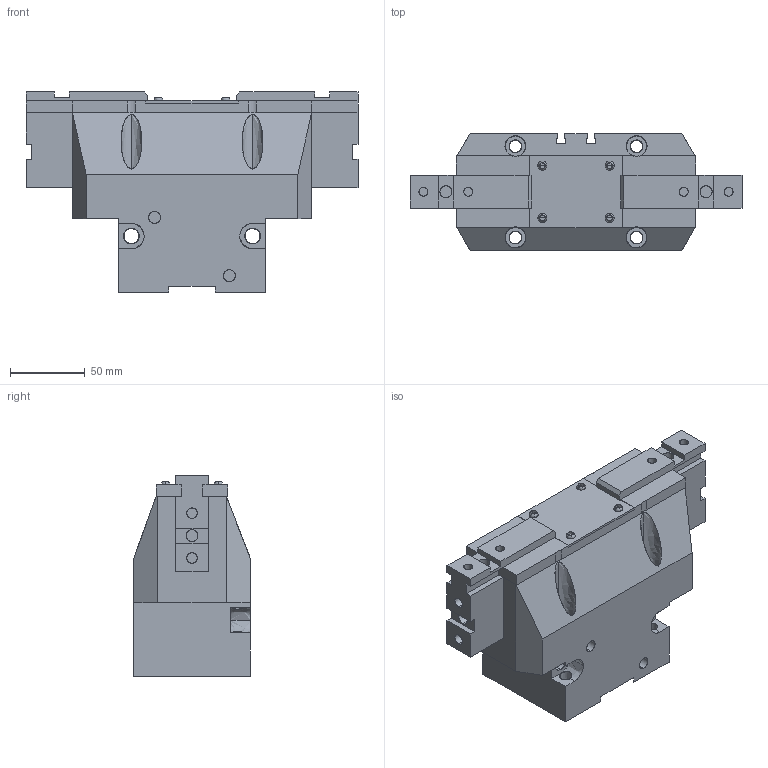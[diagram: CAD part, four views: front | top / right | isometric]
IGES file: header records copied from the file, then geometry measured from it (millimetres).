
Global section: file name: C:\Documents and Settings\Administrateur\Mes documents\OPE-160-OPEN.igs; native system: AutoCAD-16.0s (LMS Tech) (Microsoft Windows NT Version 5.1 (x86)); preprocessor: Autodesk IGES Translator Mechanical Desktop.R7.0.43.0 (Mar 18 2003) from Autodesk, Inc.; date: 20050629.143319; units: millimetre
Bounding box: 222 x 78 x 134 mm (x, y, z)
Surface area: 164232.8 mm2 (no closed solid volume)
Topology: 0 solids, 0 shells, 301 faces, 2951 edges, 3036 vertices
Faces by surface type: bspline 301
